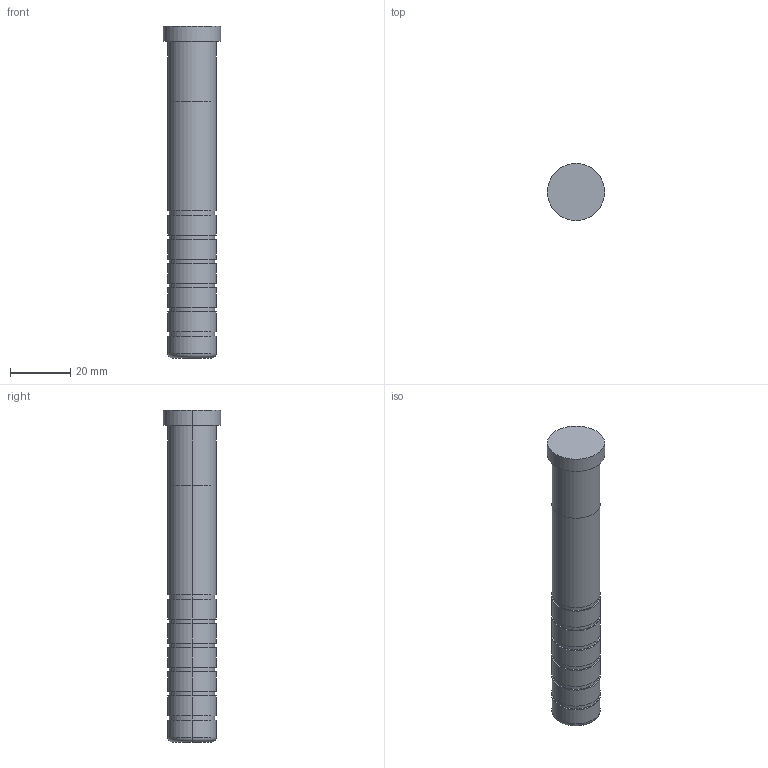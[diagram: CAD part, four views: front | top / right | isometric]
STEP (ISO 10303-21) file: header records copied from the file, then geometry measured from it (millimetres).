
FILE_DESCRIPTION(/* description */ (''),/* implementation_level */ '2;1');
FILE_NAME(/* name */ '3d_sgoh16-110_05223_r00.stp',/* time_stamp */ '2011-01-10T14:11:09+09:00',/* author */ ('MISUMI'),/* organization */ (''),/* preprocessor_version */ 'ST-DEVELOPER v11',/* originating_system */ 'UGS - NX 5.0',/* authorisation */ '');
FILE_SCHEMA (('CONFIG_CONTROL_DESIGN'));
Length unit declared in the file: millimetre
Products named in the file (1): 3d_sgoh16-110_05223_r00
Bounding box: 19 x 19 x 110 mm (x, y, z)
Volume: 22287.4 mm3; surface area: 6368.6 mm2
Topology: 1 solids, 1 shells, 49 faces, 96 edges, 62 vertices
Faces by surface type: cylinder 30, plane 15, torus 4
Entity records: 1374 total; most frequent: DIRECTION 262, CARTESIAN_POINT 208, ORIENTED_EDGE 192, AXIS2_PLACEMENT_3D 116, EDGE_CURVE 96, CIRCLE 66, EDGE_LOOP 62, VERTEX_POINT 62
